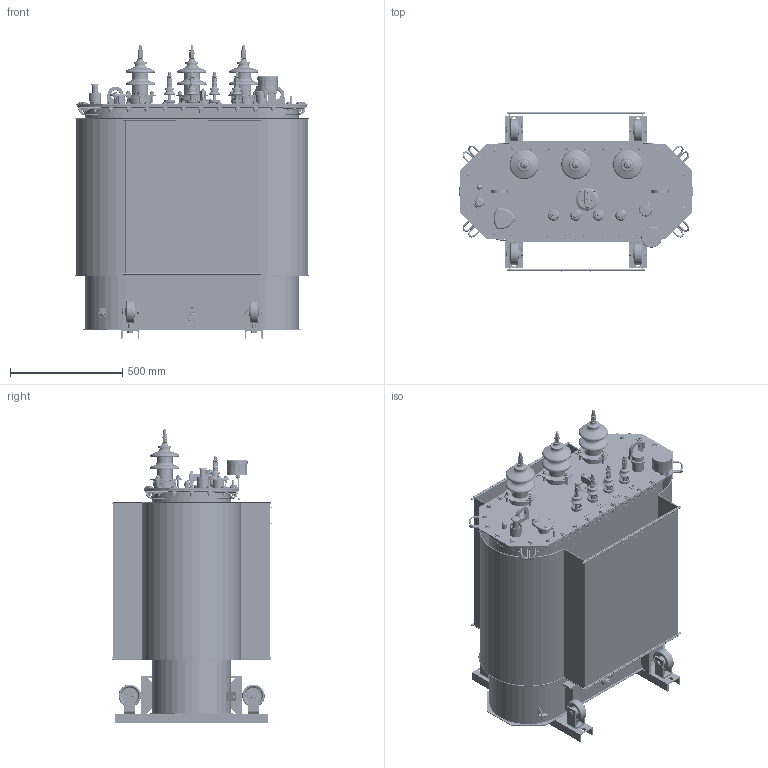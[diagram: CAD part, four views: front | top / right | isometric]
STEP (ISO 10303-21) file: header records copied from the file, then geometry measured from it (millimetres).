
FILE_DESCRIPTION(/* description */ (''),/* implementation_level */ '2;1');
FILE_NAME(/* name */ 'D:\SEARCHWORK\Готовые\Готовые ТМГ\ТМГ33\ТМГ33-160-10-УХЛ1-Х3К2\ТМГ33-160-10-УХЛ1-Х3К2.stp',/* time_stamp */ '2024-01-22T13:24:00+03:00',/* author */ ('55505'),/* organization */ (''),/* preprocessor_version */ 'ST-DEVELOPER v18.1',/* originating_system */ 'Autodesk Inventor 2021',/* authorisation */ '');
FILE_SCHEMA (('AUTOMOTIVE_DESIGN { 1 0 10303 214 3 1 1 }'));
Products named in the file (1): ВИЕЛ.672233.084
Bounding box: 1039.98 x 709.5 x 1304 mm (x, y, z)
Volume: 17494577.4 mm3; surface area: 10944088.8 mm2
Topology: 45 solids, 97 shells, 12140 faces, 29739 edges, 18198 vertices
Faces by surface type: plane 5075, cylinder 3136, bspline 1999, torus 976, cone 638, sphere 316
Full cylindrical faces by diameter (mm): 0.71 x5, 1.5 x4, 1.6 x7, 2 x2, 2.7 x1, 3 x19, 3.1 x4, 3.15 x3, 3.2 x6, 3.4 x4, 3.5 x1, 3.8 x4, 3.96 x17, 4 x47, 4.2 x3, 4.3 x2, 4.5 x18, 4.8 x15, 4.917 x3, 5 x40, 5.3 x4, 5.5 x5, 5.94 x12, 6 x44, 6.1 x6, 6.2 x5, 6.5 x7, 7 x12, 7.1 x2, 7.5 x1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
Entity records: 447746 total; most frequent: CARTESIAN_POINT 164045, ORIENTED_EDGE 58442, DIRECTION 53132, EDGE_CURVE 29241, AXIS2_PLACEMENT_3D 20098, VERTEX_POINT 18225, EDGE_LOOP 13690, LINE 12936
